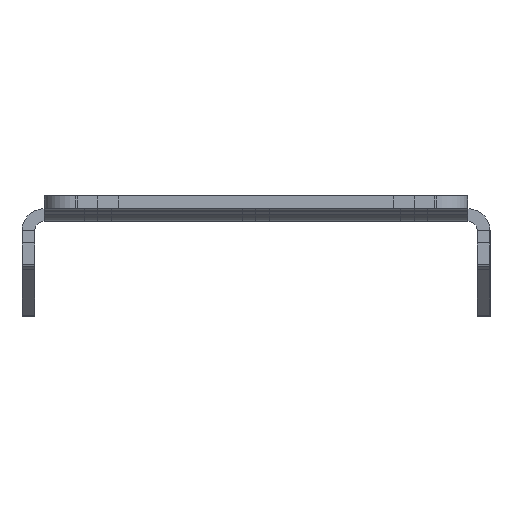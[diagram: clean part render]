
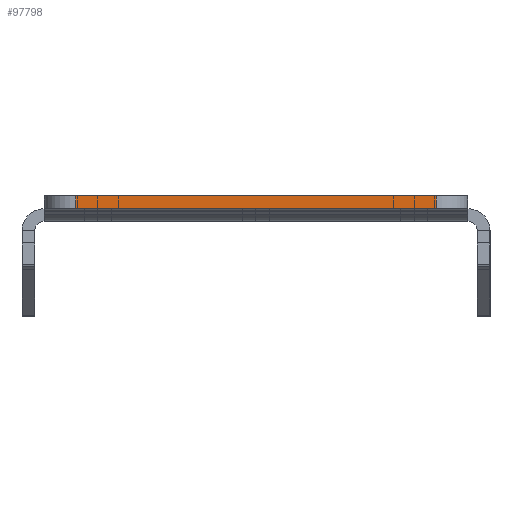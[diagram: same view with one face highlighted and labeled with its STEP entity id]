
A CAD part, left-side view. The second image highlights one B-rep face of the part: STEP entity #97798.
In plain terms, the highlighted planar face has unit normal (-1, 0, 0).
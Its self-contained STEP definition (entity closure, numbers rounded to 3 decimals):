
#7116 = DIRECTION ( 'NONE',  ( -1., 0., 0. ) ) ;
#8603 = DIRECTION ( 'NONE',  ( 0., 0., 1. ) ) ;
#9475 = CARTESIAN_POINT ( 'NONE',  ( -1076.002, -28.5, 9.531 ) ) ;
#15395 = EDGE_CURVE ( 'NONE', #130195, #98336, #82306, .T. ) ;
#20122 = VERTEX_POINT ( 'NONE', #62429 ) ;
#22466 = CARTESIAN_POINT ( 'NONE',  ( -1076.002, -28.5, 7.531 ) ) ;
#31597 = CARTESIAN_POINT ( 'NONE',  ( -1076.002, 0., 7.531 ) ) ;
#33091 = VECTOR ( 'NONE', #8603, 1000. ) ;
#36448 = DIRECTION ( 'NONE',  ( 0., 1., 0. ) ) ;
#48097 = FACE_OUTER_BOUND ( 'NONE', #95979, .T. ) ;
#54712 = CARTESIAN_POINT ( 'NONE',  ( -1076.002, 28.5, 9.531 ) ) ;
#60721 = VECTOR ( 'NONE', #66984, 1000. ) ;
#61159 = CARTESIAN_POINT ( 'NONE',  ( -1076.002, -28.5, 9.531 ) ) ;
#62429 = CARTESIAN_POINT ( 'NONE',  ( -1076.002, 28.5, 7.531 ) ) ;
#66312 = LINE ( 'NONE', #54712, #60721 ) ;
#66984 = DIRECTION ( 'NONE',  ( 0., 0., -1. ) ) ;
#67839 = LINE ( 'NONE', #78081, #111562 ) ;
#72511 = ORIENTED_EDGE ( 'NONE', *, *, #94794, .F. ) ;
#73263 = EDGE_CURVE ( 'NONE', #91361, #20122, #66312, .T. ) ;
#77781 = EDGE_CURVE ( 'NONE', #98336, #91361, #67839, .T. ) ;
#78081 = CARTESIAN_POINT ( 'NONE',  ( -1076.002, 33.5, 9.531 ) ) ;
#82306 = LINE ( 'NONE', #61159, #33091 ) ;
#88413 = PLANE ( 'NONE',  #98105 ) ;
#89730 = CARTESIAN_POINT ( 'NONE',  ( -1076.002, 33.5, 9.531 ) ) ;
#91361 = VERTEX_POINT ( 'NONE', #111808 ) ;
#94039 = ORIENTED_EDGE ( 'NONE', *, *, #73263, .T. ) ;
#94794 = EDGE_CURVE ( 'NONE', #130195, #20122, #125132, .T. ) ;
#95979 = EDGE_LOOP ( 'NONE', ( #72511, #115952, #134364, #94039 ) ) ;
#97798 = ADVANCED_FACE ( 'NONE', ( #48097 ), #88413, .T. ) ;
#98105 = AXIS2_PLACEMENT_3D ( 'NONE', #89730, #7116, #101329 ) ;
#98336 = VERTEX_POINT ( 'NONE', #9475 ) ;
#101329 = DIRECTION ( 'NONE',  ( 0., 0., 1. ) ) ;
#111562 = VECTOR ( 'NONE', #36448, 1000. ) ;
#111808 = CARTESIAN_POINT ( 'NONE',  ( -1076.002, 28.5, 9.531 ) ) ;
#114835 = VECTOR ( 'NONE', #114889, 1000. ) ;
#114889 = DIRECTION ( 'NONE',  ( 0., 1., 0. ) ) ;
#115952 = ORIENTED_EDGE ( 'NONE', *, *, #15395, .T. ) ;
#125132 = LINE ( 'NONE', #31597, #114835 ) ;
#130195 = VERTEX_POINT ( 'NONE', #22466 ) ;
#134364 = ORIENTED_EDGE ( 'NONE', *, *, #77781, .T. ) ;
